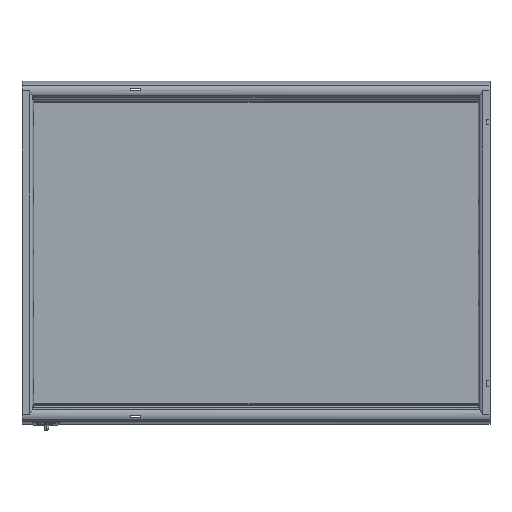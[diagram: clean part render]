
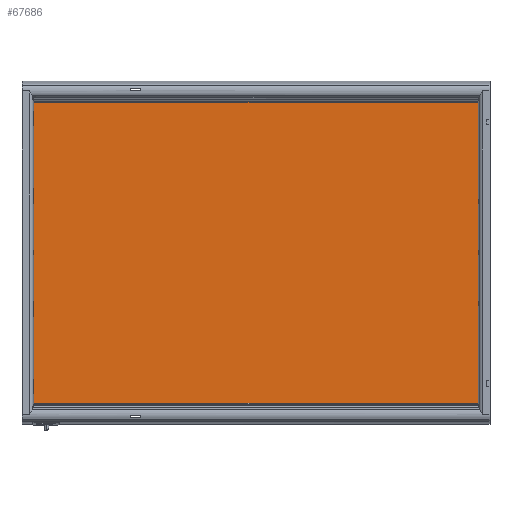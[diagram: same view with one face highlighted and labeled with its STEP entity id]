
A CAD part, top view. The second image highlights one B-rep face of the part: STEP entity #67686.
In plain terms, the highlighted planar face has unit normal (0, 0, 1).
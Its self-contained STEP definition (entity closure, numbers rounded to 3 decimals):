
#2041 = ORIENTED_EDGE ( 'NONE', *, *, #37737, .F. ) ;
#5287 = DIRECTION ( 'NONE',  ( 1., 0., 0. ) ) ;
#6398 = CARTESIAN_POINT ( 'NONE',  ( 13.053, 0., 0.66 ) ) ;
#12192 = VECTOR ( 'NONE', #79110, 1000. ) ;
#14697 = LINE ( 'NONE', #6398, #82601 ) ;
#16910 = DIRECTION ( 'NONE',  ( 0., -1., 0. ) ) ;
#19411 = ORIENTED_EDGE ( 'NONE', *, *, #30352, .T. ) ;
#19638 = CARTESIAN_POINT ( 'NONE',  ( 496.947, 164., 0.66 ) ) ;
#30352 = EDGE_CURVE ( 'NONE', #86968, #60953, #14697, .T. ) ;
#37737 = EDGE_CURVE ( 'NONE', #66476, #104630, #40925, .T. ) ;
#40925 = LINE ( 'NONE', #81603, #106394 ) ;
#41468 = CARTESIAN_POINT ( 'NONE',  ( 496.947, -164., 0.66 ) ) ;
#45156 = CARTESIAN_POINT ( 'NONE',  ( 255., 164., 0.66 ) ) ;
#49881 = CARTESIAN_POINT ( 'NONE',  ( 13.053, -164., 0.66 ) ) ;
#50862 = CARTESIAN_POINT ( 'NONE',  ( 0., 0., 0.66 ) ) ;
#54060 = LINE ( 'NONE', #45156, #12192 ) ;
#57029 = EDGE_CURVE ( 'NONE', #60953, #104630, #63183, .T. ) ;
#59213 = PLANE ( 'NONE',  #72071 ) ;
#60953 = VERTEX_POINT ( 'NONE', #49881 ) ;
#61174 = CARTESIAN_POINT ( 'NONE',  ( 13.053, 164., 0.66 ) ) ;
#63183 = LINE ( 'NONE', #73115, #89575 ) ;
#63898 = ORIENTED_EDGE ( 'NONE', *, *, #57029, .T. ) ;
#65335 = ORIENTED_EDGE ( 'NONE', *, *, #70423, .F. ) ;
#66476 = VERTEX_POINT ( 'NONE', #19638 ) ;
#67567 = FACE_OUTER_BOUND ( 'NONE', #108672, .T. ) ;
#67686 = ADVANCED_FACE ( 'NONE', ( #67567 ), #59213, .F. ) ;
#70423 = EDGE_CURVE ( 'NONE', #86968, #66476, #54060, .T. ) ;
#72071 = AXIS2_PLACEMENT_3D ( 'NONE', #50862, #93137, #16910 ) ;
#73115 = CARTESIAN_POINT ( 'NONE',  ( 255., -164., 0.66 ) ) ;
#74868 = DIRECTION ( 'NONE',  ( 0., -1., 0. ) ) ;
#79110 = DIRECTION ( 'NONE',  ( 1., 0., 0. ) ) ;
#81603 = CARTESIAN_POINT ( 'NONE',  ( 496.947, 0., 0.66 ) ) ;
#82601 = VECTOR ( 'NONE', #97100, 1000. ) ;
#86968 = VERTEX_POINT ( 'NONE', #61174 ) ;
#89575 = VECTOR ( 'NONE', #5287, 1000. ) ;
#93137 = DIRECTION ( 'NONE',  ( 0., 0., -1. ) ) ;
#97100 = DIRECTION ( 'NONE',  ( 0., -1., 0. ) ) ;
#104630 = VERTEX_POINT ( 'NONE', #41468 ) ;
#106394 = VECTOR ( 'NONE', #74868, 1000. ) ;
#108672 = EDGE_LOOP ( 'NONE', ( #2041, #65335, #19411, #63898 ) ) ;
